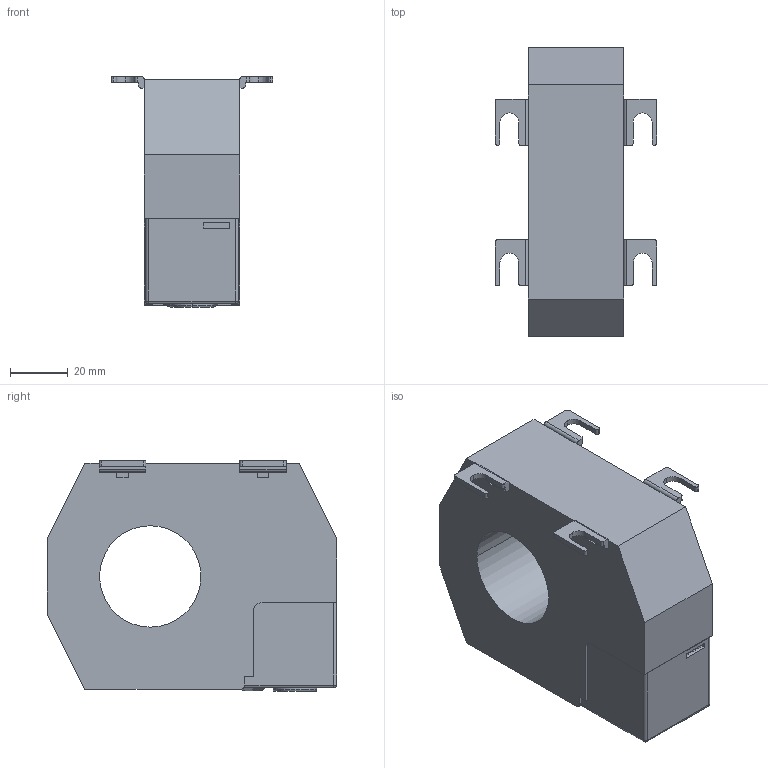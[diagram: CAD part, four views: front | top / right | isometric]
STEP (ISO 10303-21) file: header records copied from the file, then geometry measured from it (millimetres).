
FILE_DESCRIPTION (( 'STEP AP214' ), '1' );
FILE_NAME ('LW-SK10000-35.STEP', '2022-08-31T12:32:01', ( 'CAD-SW' ), ( '' ), 'SwSTEP 2.0', 'SolidWorks 2021', '' );
FILE_SCHEMA (( 'AUTOMOTIVE_DESIGN' ));
Length unit declared in the file: millimetre
Products named in the file (6): LW-SK10000_-35; LW-SK10000-70_R8; 09_0404_00_02_02; LW-SK10000-35; 09_0404_00_02_01; 09_0404_00_02
Assembly tree (5 placements, depth 3):
  LW-SK10000-35
    LW-SK10000-70_R8
    LW-SK10000_-35
    09_0404_00_02
      09_0404_00_02_01
      09_0404_00_02_02
Bounding box: 55.7 x 100 x 79.7 mm (x, y, z)
Volume: 186737.4 mm3; surface area: 37330.4 mm2
Topology: 4 solids, 4 shells, 404 faces, 1064 edges, 684 vertices
Faces by surface type: plane 228, cylinder 97, cone 38, bspline 29, torus 10, sphere 2
Entity records: 14656 total; most frequent: CARTESIAN_POINT 4034, ORIENTED_EDGE 2108, DIRECTION 1954, EDGE_CURVE 1054, VERTEX_POINT 684, VECTOR 674, LINE 674, AXIS2_PLACEMENT_3D 640
